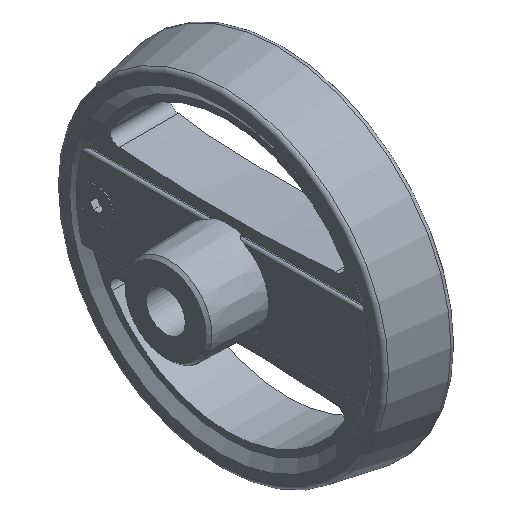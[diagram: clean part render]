
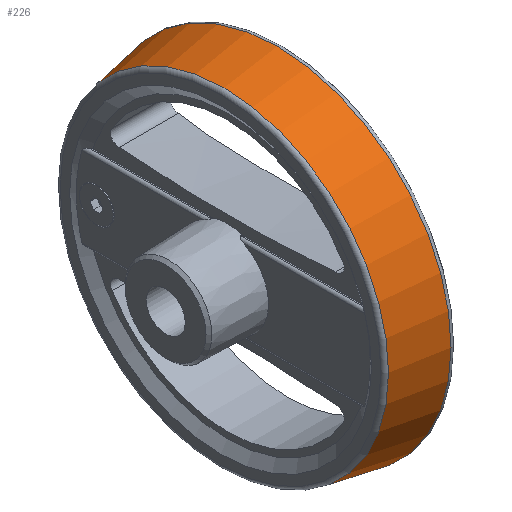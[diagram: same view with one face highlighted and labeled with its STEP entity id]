
A CAD part, isometric view. The second image highlights one B-rep face of the part: STEP entity #226.
In plain terms, the highlighted conical face has half-angle 10.006 degrees and reference radius 59.107 mm.
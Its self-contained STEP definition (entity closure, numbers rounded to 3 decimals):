
#226 = ADVANCED_FACE( '', ( #417, #418 ), #419, .T. );
#417 = FACE_OUTER_BOUND( '', #680, .T. );
#418 = FACE_BOUND( '', #681, .T. );
#419 = CONICAL_SURFACE( '', #682, 59.107, 0.175 );
#680 = EDGE_LOOP( '', ( #1241 ) );
#681 = EDGE_LOOP( '', ( #1242 ) );
#682 = AXIS2_PLACEMENT_3D( '', #1243, #1244, #1245 );
#1241 = ORIENTED_EDGE( '', *, *, #1708, .F. );
#1242 = ORIENTED_EDGE( '', *, *, #1707, .T. );
#1243 = CARTESIAN_POINT( '', ( 20.939, 0., 0. ) );
#1244 = DIRECTION( '', ( 1., 0., 0. ) );
#1245 = DIRECTION( '', ( 0., 1., 0. ) );
#1707 = EDGE_CURVE( '', #2053, #2053, #2054, .T. );
#1708 = EDGE_CURVE( '', #2055, #2055, #2056, .T. );
#2053 = VERTEX_POINT( '', #2942 );
#2054 = CIRCLE( '', #2943, 59.107 );
#2055 = VERTEX_POINT( '', #2944 );
#2056 = CIRCLE( '', #2945, 62.477 );
#2942 = CARTESIAN_POINT( '', ( 20.939, 59.107, 0. ) );
#2943 = AXIS2_PLACEMENT_3D( '', #3327, #3328, #3329 );
#2944 = CARTESIAN_POINT( '', ( 40.039, 62.477, 0. ) );
#2945 = AXIS2_PLACEMENT_3D( '', #3330, #3331, #3332 );
#3327 = CARTESIAN_POINT( '', ( 20.939, 0., 0. ) );
#3328 = DIRECTION( '', ( 1., 0., 0. ) );
#3329 = DIRECTION( '', ( 0., 1., 0. ) );
#3330 = CARTESIAN_POINT( '', ( 40.039, 0., 0. ) );
#3331 = DIRECTION( '', ( 1., 0., 0. ) );
#3332 = DIRECTION( '', ( 0., 1., 0. ) );
